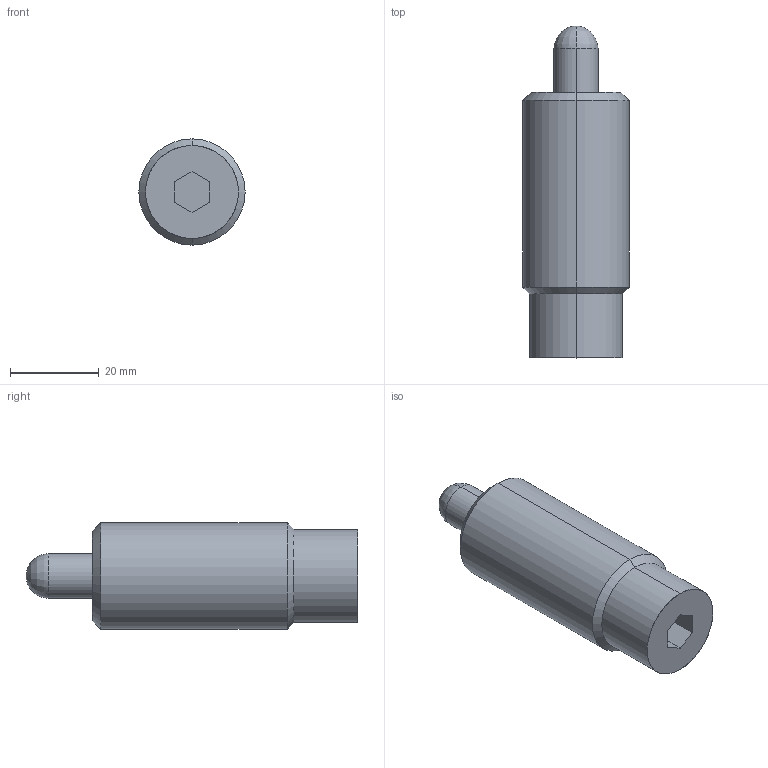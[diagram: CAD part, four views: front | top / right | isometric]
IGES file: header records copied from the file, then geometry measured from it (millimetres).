
Start section: START RECORD GO HERE.
Global section: file name: M314-04-016.igs; native system: DASSAULT SYSTEMES CATIA V5 R20 - www.3ds.com; preprocessor: CATIA Version 5 Release 20 ; author: Utente; organization: NB04-ASUS; date: 20200418.091112; units: millimetre
Bounding box: 24 x 75 x 24 mm (x, y, z)
Surface area: 5751.5 mm2 (no closed solid volume)
Topology: 0 solids, 0 shells, 21 faces, 90 edges, 88 vertices
Faces by surface type: revolution 12, extrusion 9
